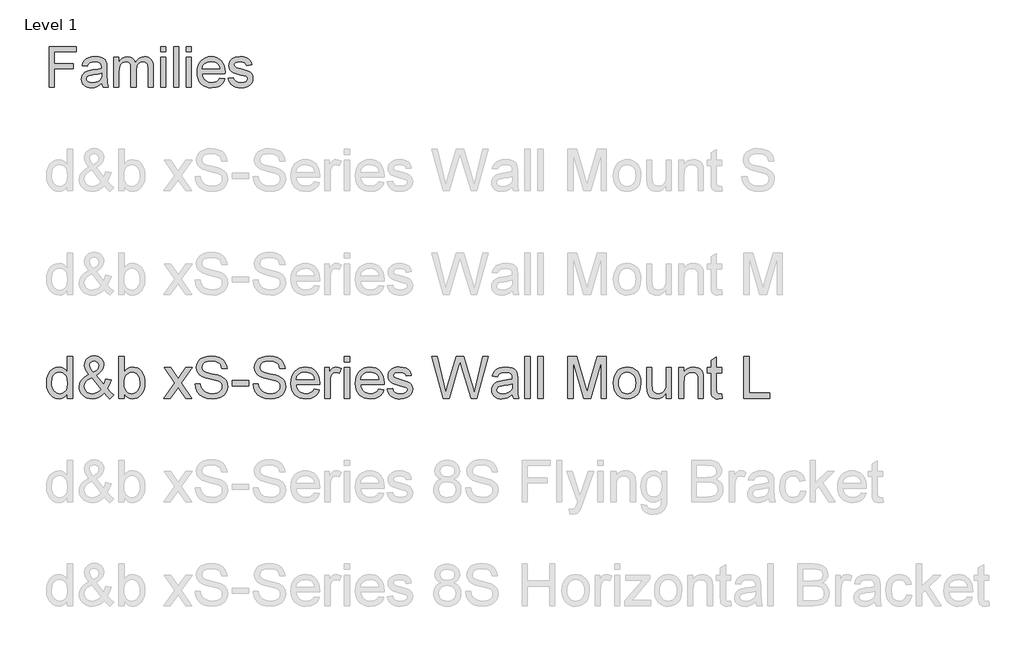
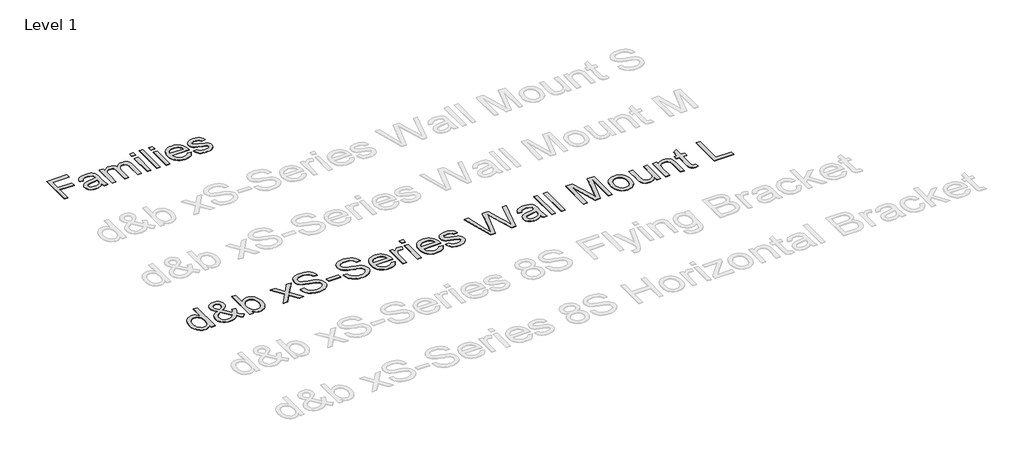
# One storey, part 40 of 55: 2 proxies.
"""IFC4 building model written with IfcOpenShell, lengths in millimetres."""

from ifc_helpers import new_model, si_unit, origin, origin_with_axes, place, context, project, spatial, polyline, outline, extrude, element, save

model = new_model("IFC4")

# Units and contexts
model_context = context("Model", 3, world=origin())
ifc_project = project(units=[si_unit("LENGTHUNIT", "METRE", prefix="MILLI")], contexts=[model_context])

# Site, building, storey
site = spatial("IfcSite", under=ifc_project)
building = spatial("IfcBuilding", under=site)
storey = spatial("IfcBuildingStorey", under=building, Name="Level 1", Elevation=0.0)

# Proxies
placement = place(None, origin())
element("IfcBuildingElementProxy", 1, Name="400mm Arial", ObjectType="400mm Arial", at=placement, inside=storey, context=model_context, shape_type="SweptSolid", body=[
    extrude(outline(polyline([(-21056.720891, 6351.3054836), (-21056.720891, 6743.0630593), (-20793.5087698, 6743.0630593), (-20793.5087698, 6694.0933624), (-21007.7511941, 6694.0933624), (-21007.7511941, 6577.7903321), (-20824.1148304, 6577.7903321), (-20824.1148304, 6528.8206351), (-21007.7511941, 6528.8206351), (-21007.7511941, 6351.3054836), (-21056.720891, 6351.3054836)])), origin_with_axes(), (0.0, 0.0, 1.0), 5.0),
    extrude(outline(polyline([(-20548.660285, 6388.0327563), (-20572.0571836, 6367.97144), (-20596.1475009, 6354.8443093), (-20621.4811893, 6347.5992809), (-20648.6082016, 6345.1842715), (-20670.4120309, 6346.6368638), (-20689.5318522, 6350.9946408), (-20705.9676654, 6358.2576024), (-20719.7194706, 6368.4257487), (-20730.5780466, 6380.8534831), (-20738.3341723, 6394.895209), (-20742.9878477, 6410.5509263), (-20744.5390729, 6427.8206351), (-20742.1957963, 6448.1210612), (-20735.1659668, 6466.5564305), (-20724.3223352, 6482.3376805), (-20710.5376524, 6494.6757487), (-20676.2493001, 6510.7439305), (-20633.879035, 6518.1085139), (-20583.8094327, 6525.855673), (-20548.9472168, 6534.9418472), (-20548.660285, 6545.8452563), (-20552.0317338, 6567.6998965), (-20562.1460804, 6581.9986654), (-20584.7658721, 6592.6151427), (-20616.2805501, 6596.1539684), (-20645.4519516, 6593.7987364), (-20665.8241107, 6586.7330404), (-20679.7163929, 6573.6656872), (-20689.4481638, 6553.3054836), (-20738.4178607, 6559.4266957), (-20729.9175056, 6586.2069987), (-20717.2327282, 6607.2486654), (-20699.1799346, 6623.3407582), (-20674.5755312, 6635.2723396), (-20644.4835568, 6642.660834), (-20609.9680501, 6645.1236654), (-20576.8632916, 6642.9477658), (-20550.6209857, 6636.4200669), (-20530.8346458, 6626.6046076), (-20517.097785, 6614.5654268), (-20507.9876997, 6599.6808387), (-20502.0816865, 6581.3291578), (-20499.690588, 6538.480673), (-20499.690588, 6477.5554836), (-20497.2038456, 6392.4801995), (-20487.4481638, 6351.3054836), (-20536.4178607, 6351.3054836), (-20544.2606638, 6368.3301048), (-20548.660285, 6388.0327563)]), holes=[polyline([(-20548.660285, 6485.9721502), (-20581.5618001, 6477.8185044), (-20627.6621789, 6470.9560518), (-20669.7933342, 6463.0176048), (-20680.7565208, 6457.5898112), (-20688.8743001, 6450.105673), (-20693.8956069, 6441.1390536), (-20695.5693759, 6431.2638169), (-20691.9229507, 6416.7020271), (-20680.9836751, 6404.7704457), (-20662.990659, 6396.8080877), (-20638.1830122, 6394.1539684), (-20611.8809289, 6397.0830641), (-20588.6394516, 6405.870351), (-20569.7975956, 6418.8181493), (-20556.6943759, 6434.228779), (-20550.8840066, 6450.105673), (-20548.9472168, 6472.103779), (-20548.660285, 6485.9721502)])]), origin_with_axes(), (0.0, 0.0, 1.0), 5.0),
    extrude(outline(polyline([(-20432.3572547, 6351.3054836), (-20432.3572547, 6639.0024533), (-20383.3875577, 6639.0024533), (-20383.3875577, 6591.6587033), (-20368.658391, 6613.405744), (-20349.720891, 6630.4423207), (-20327.2206543, 6641.4533292), (-20301.8032774, 6645.1236654), (-20274.5686657, 6641.3815963), (-20252.7379365, 6630.1553889), (-20236.4306448, 6612.1862838), (-20225.7663456, 6588.2155215), (-20207.9167954, 6613.1128344), (-20187.5565918, 6630.8966294), (-20164.6857348, 6641.5669064), (-20139.3042244, 6645.1236654), (-20119.7002057, 6643.6441732), (-20102.4932632, 6639.2056966), (-20087.683397, 6631.8082357), (-20075.2706069, 6621.4517904), (-20065.4581365, 6608.0168058), (-20058.4492291, 6591.3837269), (-20054.2438846, 6571.5525539), (-20052.8421032, 6548.5232866), (-20052.8421032, 6351.3054836), (-20101.8118001, 6351.3054836), (-20101.8118001, 6527.4816199), (-20106.3548872, 6568.369404), (-20112.7391202, 6579.6434334), (-20122.8056448, 6588.5024533), (-20135.7534431, 6594.2410896), (-20150.7814971, 6596.1539684), (-20177.3107348, 6591.2522165), (-20198.9382206, 6576.5469608), (-20207.3279874, 6565.2669537), (-20213.320678, 6551.03394), (-20218.1148304, 6513.7088927), (-20218.1148304, 6351.3054836), (-20267.0845274, 6351.3054836), (-20267.0845274, 6532.9333245), (-20269.9179791, 6560.6222449), (-20278.4183342, 6580.3727184), (-20293.3746552, 6592.2086559), (-20315.5760047, 6596.1539684), (-20334.4417717, 6593.5237601), (-20351.8250577, 6585.6331351), (-20366.1716486, 6572.6733813), (-20375.9273304, 6554.8357866), (-20381.5225009, 6530.0879173), (-20383.3875577, 6496.3973396), (-20383.3875577, 6351.3054836), (-20432.3572547, 6351.3054836)])), origin_with_axes(), (0.0, 0.0, 1.0), 5.0),
    extrude(outline(polyline([(-19979.3875577, 6694.0933624), (-19979.3875577, 6743.0630593), (-19930.4178607, 6743.0630593), (-19930.4178607, 6694.0933624), (-19979.3875577, 6694.0933624)])), origin_with_axes(), (0.0, 0.0, 1.0), 5.0),
    extrude(outline(polyline([(-19979.3875577, 6351.3054836), (-19979.3875577, 6639.0024533), (-19930.4178607, 6639.0024533), (-19930.4178607, 6351.3054836), (-19979.3875577, 6351.3054836)])), origin_with_axes(), (0.0, 0.0, 1.0), 5.0),
    extrude(outline(polyline([(-19856.9633153, 6351.3054836), (-19856.9633153, 6743.0630593), (-19807.9936183, 6743.0630593), (-19807.9936183, 6351.3054836), (-19856.9633153, 6351.3054836)])), origin_with_axes(), (0.0, 0.0, 1.0), 5.0),
    extrude(outline(polyline([(-19734.5390729, 6694.0933624), (-19734.5390729, 6743.0630593), (-19685.5693759, 6743.0630593), (-19685.5693759, 6694.0933624), (-19734.5390729, 6694.0933624)])), origin_with_axes(), (0.0, 0.0, 1.0), 5.0),
    extrude(outline(polyline([(-19734.5390729, 6351.3054836), (-19734.5390729, 6639.0024533), (-19685.5693759, 6639.0024533), (-19685.5693759, 6351.3054836), (-19734.5390729, 6351.3054836)])), origin_with_axes(), (0.0, 0.0, 1.0), 5.0),
    extrude(outline(polyline([(-19410.6886941, 6437.0024533), (-19362.6754365, 6430.8812411), (-19370.0370309, 6411.6508316), (-19379.975034, 6394.7039211), (-19392.4894457, 6380.0405096), (-19407.580266, 6367.6605972), (-19425.0920736, 6357.8272047), (-19444.8694469, 6350.8033529), (-19491.220891, 6345.1842715), (-19521.605775, 6347.6082475), (-19548.6789876, 6354.8801758), (-19572.4405288, 6367.0000563), (-19592.8903986, 6383.9678889), (-19609.3351784, 6405.3114317), (-19621.0814497, 6430.5584429), (-19628.1292125, 6459.7089223), (-19630.4784668, 6492.7628699), (-19628.1053015, 6526.937645), (-19620.9858058, 6557.0595082), (-19609.1199796, 6583.1284594), (-19592.5078229, 6605.1444987), (-19572.1117528, 6622.6353841), (-19548.8941865, 6635.1288737), (-19522.855124, 6642.6249675), (-19493.9945653, 6645.1236654), (-19466.0635461, 6642.6309452), (-19440.8045795, 6635.1527847), (-19418.2176654, 6622.6891839), (-19398.3028039, 6605.2401427), (-19382.0463231, 6583.2719253), (-19370.4345511, 6557.2507961), (-19363.4674879, 6527.1767549), (-19361.1451335, 6493.0498018), (-19361.4320653, 6479.8509381), (-19581.5087698, 6479.8509381), (-19578.6723292, 6460.3096858), (-19573.0323257, 6443.1953983), (-19564.5887592, 6428.5080759), (-19553.3416297, 6416.2477184), (-19524.9234242, 6399.6774059), (-19490.2644516, 6394.1539684), (-19464.2014782, 6396.7124438), (-19442.2511941, 6404.3878699), (-19424.4135994, 6417.6584665), (-19410.6886941, 6437.0024533)]), holes=[polyline([(-19581.5087698, 6528.8206351), (-19410.1148304, 6528.8206351), (-19416.7381732, 6554.6923207), (-19429.721838, 6573.199423), (-19443.076123, 6583.2420366), (-19458.2715539, 6590.4153321), (-19494.1858532, 6596.1539684), (-19527.1949677, 6591.5750148), (-19554.4893569, 6577.838154), (-19573.4627234, 6556.4258671), (-19581.5087698, 6528.8206351)])]), origin_with_axes(), (0.0, 0.0, 1.0), 5.0),
    extrude(outline(polyline([(-19330.5390729, 6437.0024533), (-19281.5693759, 6443.1236654), (-19273.8461278, 6422.1776427), (-19258.9017622, 6406.7789684), (-19236.6406354, 6397.3102184), (-19206.9671032, 6394.1539684), (-19177.6522357, 6397.0471976), (-19157.0409668, 6405.7268851), (-19144.8463645, 6418.3040631), (-19140.7814971, 6432.8897639), (-19144.8702755, 6445.371298), (-19157.1366107, 6454.8878699), (-19207.5409668, 6468.8518851), (-19281.2824441, 6492.8106919), (-19299.9449677, 6504.8498728), (-19313.4666297, 6520.7865442), (-19321.680053, 6539.6044893), (-19324.4178607, 6560.2874911), (-19322.2180501, 6579.2608576), (-19315.6186183, 6596.775654), (-19305.2173399, 6612.1384618), (-19291.6119895, 6624.6558624), (-19260.4798872, 6639.1459192), (-19218.3487319, 6645.1236654), (-19186.4753891, 6642.7206114), (-19158.7625577, 6635.5114495), (-19136.4775198, 6624.2015536), (-19120.8875577, 6609.496298), (-19110.5580122, 6590.3077326), (-19104.0542244, 6565.5479078), (-19153.0239213, 6559.4266957), (-19159.2049109, 6574.8373254), (-19171.4353797, 6586.4461086), (-19189.8348825, 6593.7270035), (-19214.5229744, 6596.1539684), (-19242.6422925, 6593.8346029), (-19261.3885047, 6586.8765063), (-19271.933249, 6576.8338927), (-19275.4481638, 6565.260976), (-19269.6138835, 6551.010029), (-19251.345891, 6540.2022639), (-19209.1669138, 6529.7770745), (-19137.2904933, 6506.7268851), (-19118.3051713, 6495.7039211), (-19103.9107585, 6480.6160896), (-19094.8365397, 6461.4155688), (-19091.8118001, 6438.0545366), (-19095.3625814, 6413.9044419), (-19106.0149251, 6391.1890063), (-19123.3623446, 6371.6895982), (-19146.9983532, 6357.1875858), (-19175.5480691, 6348.1851), (-19207.6366107, 6345.1842715), (-19233.9924938, 6346.630886), (-19257.0127944, 6350.9707298), (-19276.6975127, 6358.2038027), (-19293.0466486, 6368.3301048), (-19306.4009336, 6381.3018141), (-19317.1010994, 6397.0711086), (-19325.1471458, 6415.6379883), (-19330.5390729, 6437.0024533)])), origin_with_axes(), (0.0, 0.0, 1.0), 5.0),
])
element("IfcBuildingElementProxy", 2, Name="400mm Arial", ObjectType="400mm Arial", at=placement, inside=storey, context=model_context, shape_type="SweptSolid", body=[
    extrude(outline(polyline([(-20879.8211974, 3351.3054836), (-20879.8211974, 3398.6886846), (-20894.8491769, 3375.2116819), (-20913.0532043, 3358.4423943), (-20934.4332796, 3348.3808217), (-20958.9894028, 3345.0269642), (-20991.4611202, 3349.8830065), (-21021.1859854, 3364.4511335), (-21046.3491139, 3387.7135384), (-21065.1356211, 3418.6524142), (-21076.8342686, 3456.0169621), (-21080.7338177, 3498.5563835), (-21077.1408369, 3540.5685074), (-21066.3618944, 3578.5094038), (-21048.4092531, 3610.2208318), (-21023.2951755, 3633.5445503), (-20992.9203855, 3647.8919481), (-20959.1856065, 3652.674414), (-20934.6110892, 3649.2531115), (-20912.8815261, 3638.9892038), (-20894.4629008, 3623.2561171), (-20879.8211974, 3603.4272776), (-20879.8211974, 3753.1307242), (-20829.5930424, 3753.1307242), (-20829.5930424, 3351.3054836), (-20879.8211974, 3351.3054836)]), holes=[polyline([(-21030.5056627, 3498.7525872), (-21029.089317, 3474.3957335), (-21024.8402799, 3453.3191608), (-21017.7585515, 3435.5228693), (-21007.8441318, 3421.0068589), (-20983.1469871, 3401.6930542), (-20969.2717046, 3396.864603), (-20954.3786151, 3395.2551193), (-20939.415015, 3396.7910266), (-20925.6225058, 3401.3987486), (-20901.5507606, 3419.8296365), (-20892.0440767, 3433.7386416), (-20885.2535882, 3450.8911397), (-20879.8211974, 3494.9266145), (-20885.3516901, 3543.0701049), (-20892.2648059, 3561.6052261), (-20901.9431681, 3576.4492646), (-20913.6448812, 3587.8229496), (-20926.6280499, 3595.9470104), (-20940.8926743, 3600.8214468), (-20956.4387543, 3602.4462589), (-20971.6261493, 3600.8858262), (-20985.5014319, 3596.2045278), (-20998.064602, 3588.4023638), (-21009.3156597, 3577.4793342), (-21018.586286, 3563.1963157), (-21025.2081619, 3545.3141851), (-21030.5056627, 3498.7525872)])]), origin_with_axes(), (0.0, 0.0, 1.0), 5.0),
    extrude(outline(polyline([(-20523.809528, 3400.9450275), (-20549.3405384, 3376.4808748), (-20577.0788409, 3359.00648), (-20607.0734862, 3348.5218431), (-20639.3735254, 3345.0269642), (-20668.6814577, 3347.6144009), (-20694.8010793, 3355.376711), (-20717.7323904, 3368.3138945), (-20737.4753908, 3386.4259514), (-20750.308341, 3403.7961129), (-20759.4747341, 3422.1595558), (-20764.9745699, 3441.5162802), (-20766.8078485, 3461.8662859), (-20760.9094739, 3497.0603301), (-20743.2143499, 3528.6736562), (-20713.796053, 3556.6817387), (-20672.7281596, 3581.0600523), (-20694.6416638, 3609.4114914), (-20707.7995765, 3631.8768186), (-20714.3846642, 3651.0557332), (-20716.5796934, 3669.5479349), (-20714.8506481, 3687.1020374), (-20709.6635119, 3703.4666548), (-20701.018285, 3718.6417871), (-20688.9149674, 3732.6274343), (-20674.1935562, 3744.3444759), (-20657.6940487, 3752.7137912), (-20639.4164449, 3757.7353805), (-20619.3607448, 3759.4092436), (-20600.212487, 3757.8089569), (-20582.8913764, 3753.0080968), (-20567.397413, 3745.0066634), (-20553.7305969, 3733.8046567), (-20542.5715097, 3720.3585698), (-20534.6007332, 3705.6248959), (-20529.8182672, 3689.603635), (-20528.2241119, 3672.2947871), (-20532.9452642, 3644.31123), (-20547.108721, 3618.436863), (-20570.7144823, 3594.6716861), (-20603.7625482, 3573.0156993), (-20531.069066, 3482.4676776), (-20518.6837055, 3508.3420446), (-20509.3885538, 3538.0914353), (-20459.1603987, 3527.2021282), (-20474.6114425, 3480.6773185), (-20494.6732739, 3444.5022557), (-20466.1256311, 3411.1966724), (-20434.0463211, 3383.6790991), (-20471.7174374, 3345.0269642), (-20497.3465498, 3368.47331), (-20523.809528, 3400.9450275)]), holes=[polyline([(-20557.4584678, 3437.1446158), (-20647.1235727, 3549.0788442), (-20681.3733865, 3527.2266537), (-20702.305872, 3506.9931439), (-20713.0112381, 3487.6670765), (-20716.5796934, 3468.5372127), (-20711.6991256, 3444.8456122), (-20697.0574222, 3420.2710949), (-20686.2784798, 3409.3266056), (-20673.4639236, 3401.5091132), (-20658.6137537, 3396.8186177), (-20641.7279702, 3395.2551193), (-20619.0051256, 3398.1736498), (-20595.5710425, 3406.9292412), (-20574.1480476, 3420.3201459), (-20557.4584678, 3437.1446158)]), polyline([(-20629.1709314, 3604.7026019), (-20602.9041569, 3621.3676562), (-20587.8700461, 3635.8499441), (-20580.8067117, 3649.9398245), (-20578.452267, 3665.4276565), (-20581.5547385, 3682.9756277), (-20590.862153, 3696.9674062), (-20604.829406, 3706.1276679), (-20621.9113933, 3709.1810885), (-20639.3612626, 3706.1521934), (-20653.6473468, 3697.0655081), (-20663.1754905, 3683.6132898), (-20666.3515384, 3667.4877957), (-20662.0350563, 3649.0936959), (-20648.9875082, 3628.639457), (-20629.1709314, 3604.7026019)])]), origin_with_axes(), (0.0, 0.0, 1.0), 5.0),
    extrude(outline(polyline([(-20333.590011, 3351.3054836), (-20383.8181661, 3351.3054836), (-20383.8181661, 3753.1307242), (-20333.590011, 3753.1307242), (-20333.590011, 3604.1139907), (-20317.0721094, 3625.3591759), (-20298.4204923, 3640.5343082), (-20277.6351595, 3649.6393876), (-20254.7161112, 3652.674414), (-20228.8417442, 3649.9398245), (-20204.3898543, 3641.736056), (-20182.758393, 3628.5781433), (-20165.3453119, 3610.9811212), (-20151.6968898, 3589.116668), (-20141.3594058, 3563.1564619), (-20134.8478945, 3534.1796234), (-20132.6773907, 3503.265273), (-20134.9245365, 3467.5929822), (-20141.6659741, 3436.2126481), (-20152.9017034, 3409.1242705), (-20168.6317244, 3386.3278495), (-20187.5132678, 3368.2587122), (-20208.2035643, 3355.3521855), (-20230.702614, 3347.6082695), (-20255.0104168, 3345.0269642), (-20278.6836232, 3348.3562962), (-20299.671291, 3358.3442924), (-20317.9734203, 3374.9909527), (-20333.590011, 3398.2962771), (-20333.590011, 3351.3054836)]), holes=[polyline([(-20333.590011, 3500.9108283), (-20330.1564457, 3459.0213318), (-20319.8557498, 3430.6698927), (-20307.6849872, 3415.1759293), (-20293.5399244, 3404.1088126), (-20277.4205617, 3397.4685426), (-20259.3268989, 3395.2551193), (-20244.3050508, 3396.8860628), (-20230.3377977, 3401.7788933), (-20217.4251396, 3409.9336109), (-20205.5670767, 3421.3502155), (-20195.6526569, 3435.9980502), (-20188.5709285, 3453.8464584), (-20184.3218914, 3474.8954399), (-20182.9055458, 3499.1449947), (-20188.3379366, 3545.1057186), (-20195.1284251, 3562.8989445), (-20204.6351089, 3577.2340795), (-20216.0670419, 3588.264408), (-20228.6332778, 3596.1432141), (-20242.3338164, 3600.8704977), (-20257.1686579, 3602.4462589), (-20272.190506, 3600.8153154), (-20286.1577591, 3595.9224849), (-20299.0704171, 3587.7677673), (-20310.9284801, 3576.3511628), (-20320.8428999, 3561.8504808), (-20327.9246283, 3544.443531), (-20332.1736653, 3524.1303135), (-20333.590011, 3500.9108283)])]), origin_with_axes(), (0.0, 0.0, 1.0), 5.0),
    extrude(outline(polyline([(-19950.6003285, 3351.3054836), (-19843.2768878, 3499.7336059), (-19944.3218092, 3646.3958946), (-19884.0872638, 3646.3958946), (-19835.3306367, 3575.6644497), (-19812.4729021, 3542.4079173), (-19792.6563253, 3569.6802359), (-19737.1306695, 3646.3958946), (-19676.6999204, 3646.3958946), (-19782.8461387, 3499.635504), (-19680.623995, 3351.3054836), (-19740.9566422, 3351.3054836), (-19802.5646137, 3440.5781811), (-19813.7482263, 3456.9611926), (-19890.1695795, 3351.3054836), (-19950.6003285, 3351.3054836)])), origin_with_axes(), (0.0, 0.0, 1.0), 5.0),
    extrude(outline(polyline([(-19649.2313981, 3489.43291), (-19599.003243, 3489.43291), (-19593.2397584, 3461.5597175), (-19582.8164352, 3439.155704), (-19566.556051, 3421.3747409), (-19543.2813835, 3407.3706996), (-19514.8318425, 3398.2840144), (-19483.0468381, 3395.2551193), (-19455.063281, 3397.5482504), (-19430.5623402, 3404.4276437), (-19410.7089752, 3415.3169507), (-19396.6681457, 3429.6398231), (-19388.3172244, 3446.0841483), (-19385.533584, 3463.3378138), (-19387.6182486, 3480.150021), (-19393.8722425, 3494.6813598), (-19406.5764341, 3507.0789831), (-19428.0116917, 3517.4900435), (-19501.1466323, 3536.6689582), (-19549.1552327, 3549.360887), (-19579.8733793, 3561.4396792), (-19604.8770922, 3578.3377255), (-19622.5967416, 3598.8164899), (-19633.1549549, 3622.434514), (-19636.6743593, 3648.7503394), (-19632.3210891, 3678.1686363), (-19619.2612782, 3705.6003704), (-19597.8382834, 3728.8505125), (-19568.395461, 3745.7240333), (-19533.054264, 3755.987941), (-19493.9361452, 3759.4092436), (-19451.5561394, 3755.8285255), (-19414.4736342, 3745.0863712), (-19384.013005, 3727.40351), (-19361.4986269, 3703.000671), (-19347.249331, 3673.3984331), (-19341.5839483, 3640.1173753), (-19391.8121033, 3640.1173753), (-19401.0336787, 3670.0874951), (-19409.3968627, 3681.9455581), (-19420.2616443, 3691.7189564), (-19450.3053406, 3704.8155555), (-19491.9741079, 3709.1810885), (-19534.6238939, 3704.8646064), (-19550.9271976, 3699.4690038), (-19563.8827752, 3691.9151602), (-19580.805347, 3672.8588728), (-19586.4462043, 3650.2218674), (-19582.4485532, 3630.9203254), (-19570.4556002, 3615.3957052), (-19542.1041611, 3601.5142912), (-19488.4424407, 3587.3385717), (-19433.0639377, 3573.8740907), (-19399.5621507, 3562.1263923), (-19370.9286687, 3543.9039708), (-19350.9526764, 3521.4141181), (-19339.2172408, 3494.902089), (-19335.3054289, 3464.6131381), (-19339.805852, 3433.6497368), (-19353.3071212, 3404.5257455), (-19375.2574136, 3379.4607189), (-19405.1049061, 3360.6742117), (-19440.9979261, 3348.9387761), (-19481.0848008, 3345.0269642), (-19530.2951491, 3349.2453444), (-19570.7989567, 3361.900485), (-19603.0622077, 3383.041437), (-19627.5508858, 3412.7172513), (-19643.2717098, 3448.8677887), (-19649.2313981, 3489.43291)])), origin_with_axes(), (0.0, 0.0, 1.0), 5.0),
    extrude(outline(polyline([(-19291.3557932, 3470.5973519), (-19291.3557932, 3520.825507), (-19134.3928086, 3520.825507), (-19134.3928086, 3470.5973519), (-19291.3557932, 3470.5973519)])), origin_with_axes(), (0.0, 0.0, 1.0), 5.0),
    extrude(outline(polyline([(-19090.4431729, 3489.43291), (-19040.2150178, 3489.43291), (-19034.4515332, 3461.5597175), (-19024.02821, 3439.155704), (-19007.7678258, 3421.3747409), (-18984.4931583, 3407.3706996), (-18956.0436173, 3398.2840144), (-18924.2586129, 3395.2551193), (-18896.2750558, 3397.5482504), (-18871.774115, 3404.4276437), (-18851.9207499, 3415.3169507), (-18837.8799205, 3429.6398231), (-18829.5289992, 3446.0841483), (-18826.7453587, 3463.3378138), (-18828.8300234, 3480.150021), (-18835.0840173, 3494.6813598), (-18847.7882089, 3507.0789831), (-18869.2234665, 3517.4900435), (-18942.3584071, 3536.6689582), (-18990.3670075, 3549.360887), (-19021.0851541, 3561.4396792), (-19046.088867, 3578.3377255), (-19063.8085164, 3598.8164899), (-19074.3667297, 3622.434514), (-19077.8861341, 3648.7503394), (-19073.5328638, 3678.1686363), (-19060.473053, 3705.6003704), (-19039.0500582, 3728.8505125), (-19009.6072358, 3745.7240333), (-18974.2660388, 3755.987941), (-18935.14792, 3759.4092436), (-18892.7679141, 3755.8285255), (-18855.685409, 3745.0863712), (-18825.2247798, 3727.40351), (-18802.7104017, 3703.000671), (-18788.4611058, 3673.3984331), (-18782.7957231, 3640.1173753), (-18833.0238781, 3640.1173753), (-18842.2454535, 3670.0874951), (-18850.6086375, 3681.9455581), (-18861.4734191, 3691.7189564), (-18891.5171154, 3704.8155555), (-18933.1858827, 3709.1810885), (-18975.8356687, 3704.8646064), (-18992.1389724, 3699.4690038), (-19005.09455, 3691.9151602), (-19022.0171218, 3672.8588728), (-19027.657979, 3650.2218674), (-19023.660328, 3630.9203254), (-19011.667375, 3615.3957052), (-18983.3159359, 3601.5142912), (-18929.6542155, 3587.3385717), (-18874.2757125, 3573.8740907), (-18840.7739255, 3562.1263923), (-18812.1404435, 3543.9039708), (-18792.1644512, 3521.4141181), (-18780.4290156, 3494.902089), (-18776.5172037, 3464.6131381), (-18781.0176267, 3433.6497368), (-18794.518896, 3404.5257455), (-18816.4691883, 3379.4607189), (-18846.3166809, 3360.6742117), (-18882.2097009, 3348.9387761), (-18922.2965756, 3345.0269642), (-18971.5069238, 3349.2453444), (-19012.0107315, 3361.900485), (-19044.2739825, 3383.041437), (-19068.7626606, 3412.7172513), (-19084.4834846, 3448.8677887), (-19090.4431729, 3489.43291)])), origin_with_axes(), (0.0, 0.0, 1.0), 5.0),
    extrude(outline(polyline([(-18500.850962, 3439.204755), (-18451.6038255, 3432.9262356), (-18459.1546035, 3413.2016293), (-18469.3480004, 3395.819205), (-18482.1840164, 3380.7789628), (-18497.6626513, 3368.0809026), (-18515.6244897, 3357.9948045), (-18535.9101161, 3350.7904488), (-18583.4527326, 3345.0269642), (-18614.618469, 3347.5132333), (-18642.3874282, 3354.9720408), (-18666.7596104, 3367.4033865), (-18687.7350155, 3384.8072706), (-18704.602405, 3406.699315), (-18716.6505403, 3432.5951418), (-18723.8794215, 3462.4947509), (-18726.2890486, 3496.3981425), (-18723.8548961, 3531.4511652), (-18716.5524385, 3562.3471215), (-18704.3816758, 3589.0860112), (-18687.342608, 3611.6678343), (-18666.4223852, 3629.6082129), (-18642.6081574, 3642.4227691), (-18615.8999246, 3650.1115028), (-18586.2976867, 3652.674414), (-18557.6488763, 3650.1176342), (-18531.7407868, 3642.4472946), (-18508.5734182, 3629.6633952), (-18488.1467704, 3611.7659362), (-18471.472519, 3589.233164), (-18459.5623394, 3562.5433252), (-18452.4162316, 3531.6964199), (-18450.0341957, 3496.6924481), (-18450.3285013, 3483.1543906), (-18676.0608935, 3483.1543906), (-18673.1515601, 3463.1109533), (-18667.3666157, 3445.5568507), (-18658.7060604, 3430.492083), (-18647.1698942, 3417.9166502), (-18633.3957791, 3408.0022304), (-18618.0213774, 3400.920502), (-18582.4717139, 3395.2551193), (-18555.7389556, 3397.8793442), (-18533.2245775, 3405.7520189), (-18514.9285796, 3419.3636527), (-18500.850962, 3439.204755)]), holes=[polyline([(-18676.0608935, 3533.3825457), (-18500.2623508, 3533.3825457), (-18507.0559049, 3559.9191003), (-18520.3732332, 3578.9018113), (-18534.0707061, 3589.2025071), (-18549.65664, 3596.560147), (-18567.1310348, 3600.974731), (-18586.4938904, 3602.4462589), (-18620.3512967, 3597.7496321), (-18648.3471166, 3583.6597517), (-18667.8080741, 3561.6971966), (-18676.0608935, 3533.3825457)])]), origin_with_axes(), (0.0, 0.0, 1.0), 5.0),
    extrude(outline(polyline([(-18399.8060406, 3351.3054836), (-18399.8060406, 3646.3958946), (-18355.8564049, 3646.3958946), (-18355.8564049, 3602.7405645), (-18339.6205462, 3628.0508458), (-18324.6600117, 3642.9623293), (-18309.6504263, 3650.2463929), (-18293.2674148, 3652.674414), (-18268.2514391, 3648.7993903), (-18242.843056, 3637.1743193), (-18259.618475, 3592.1455631), (-18277.2768108, 3599.871085), (-18294.9351465, 3602.4462589), (-18309.9324692, 3599.9691868), (-18323.3356365, 3592.5379705), (-18334.1636299, 3580.7166958), (-18341.4354307, 3565.0694482), (-18347.5422718, 3537.0123147), (-18349.5778855, 3506.4045327), (-18349.5778855, 3351.3054836), (-18399.8060406, 3351.3054836)])), origin_with_axes(), (0.0, 0.0, 1.0), 5.0),
    extrude(outline(polyline([(-18211.4504591, 3702.9025691), (-18211.4504591, 3753.1307242), (-18161.222304, 3753.1307242), (-18161.222304, 3702.9025691), (-18211.4504591, 3702.9025691)])), origin_with_axes(), (0.0, 0.0, 1.0), 5.0),
    extrude(outline(polyline([(-18211.4504591, 3351.3054836), (-18211.4504591, 3646.3958946), (-18161.222304, 3646.3958946), (-18161.222304, 3351.3054836), (-18211.4504591, 3351.3054836)])), origin_with_axes(), (0.0, 0.0, 1.0), 5.0),
    extrude(outline(polyline([(-17879.2775429, 3439.204755), (-17830.0304065, 3432.9262356), (-17837.5811844, 3413.2016293), (-17847.7745814, 3395.819205), (-17860.6105973, 3380.7789628), (-17876.0892323, 3368.0809026), (-17894.0510707, 3357.9948045), (-17914.336697, 3350.7904488), (-17961.8793136, 3345.0269642), (-17993.0450499, 3347.5132333), (-18020.8140092, 3354.9720408), (-18045.1861914, 3367.4033865), (-18066.1615965, 3384.8072706), (-18083.0289859, 3406.699315), (-18095.0771213, 3432.5951418), (-18102.3060025, 3462.4947509), (-18104.7156295, 3496.3981425), (-18102.281477, 3531.4511652), (-18094.9790194, 3562.3471215), (-18082.8082567, 3589.0860112), (-18065.769189, 3611.6678343), (-18044.8489662, 3629.6082129), (-18021.0347384, 3642.4227691), (-17994.3265055, 3650.1115028), (-17964.7242676, 3652.674414), (-17936.0754573, 3650.1176342), (-17910.1673678, 3642.4472946), (-17886.9999991, 3629.6633952), (-17866.5733513, 3611.7659362), (-17849.8990999, 3589.233164), (-17837.9889203, 3562.5433252), (-17830.8428126, 3531.6964199), (-17828.4607766, 3496.6924481), (-17828.7550822, 3483.1543906), (-18054.4874745, 3483.1543906), (-18051.578141, 3463.1109533), (-18045.7931967, 3445.5568507), (-18037.1326413, 3430.492083), (-18025.5964751, 3417.9166502), (-18011.8223601, 3408.0022304), (-17996.4479584, 3400.920502), (-17960.8982949, 3395.2551193), (-17934.1655366, 3397.8793442), (-17911.6511585, 3405.7520189), (-17893.3551606, 3419.3636527), (-17879.2775429, 3439.204755)]), holes=[polyline([(-18054.4874745, 3533.3825457), (-17878.6889317, 3533.3825457), (-17885.4824859, 3559.9191003), (-17898.7998141, 3578.9018113), (-17912.4972871, 3589.2025071), (-17928.0832209, 3596.560147), (-17945.5576157, 3600.974731), (-17964.9204714, 3602.4462589), (-17998.7778777, 3597.7496321), (-18026.7736975, 3583.6597517), (-18046.234655, 3561.6971966), (-18054.4874745, 3533.3825457)])]), origin_with_axes(), (0.0, 0.0, 1.0), 5.0),
    extrude(outline(polyline([(-17797.0681797, 3439.204755), (-17746.8400246, 3445.4832743), (-17738.918299, 3423.9989658), (-17723.5898825, 3408.2045655), (-17700.7566734, 3398.4924808), (-17670.3205696, 3395.2551193), (-17640.2523479, 3398.2227007), (-17619.1113959, 3407.125445), (-17606.6034081, 3420.0258403), (-17602.4340788, 3434.9863747), (-17606.6279335, 3447.7886682), (-17619.2094978, 3457.5498038), (-17670.9091808, 3471.8726761), (-17746.545719, 3496.4471934), (-17765.6878455, 3508.7957657), (-17779.5569967, 3525.141989), (-17787.9814944, 3544.443531), (-17790.7896603, 3565.6580594), (-17788.5333174, 3585.119017), (-17781.7642887, 3603.0839211), (-17771.0957109, 3618.8415332), (-17757.1407205, 3631.6806148), (-17725.2085633, 3646.5430474), (-17704.3251287, 3651.1415724), (-17681.9946916, 3652.674414), (-17649.302245, 3650.2096047), (-17620.8772295, 3642.8151766), (-17598.0194949, 3631.214631), (-17582.0288908, 3616.1314692), (-17571.4338893, 3596.4497824), (-17564.7629625, 3571.053662), (-17614.9911176, 3564.7751426), (-17621.3309506, 3580.5818057), (-17633.8757267, 3592.4889196), (-17652.748073, 3599.9569241), (-17678.070617, 3602.4462589), (-17706.9125654, 3600.0672887), (-17726.140531, 3592.930378), (-17736.9562617, 3582.6296821), (-17740.5615053, 3570.7593564), (-17734.5772915, 3556.1421785), (-17715.8398352, 3545.0566677), (-17672.5769125, 3534.3635644), (-17598.8533607, 3510.7210148), (-17579.3801404, 3499.4147748), (-17564.6158097, 3483.9392056), (-17555.3083952, 3464.2452561), (-17552.2059237, 3440.2838755), (-17555.8479555, 3415.5131545), (-17566.7740507, 3392.2139614), (-17584.5672766, 3372.2134436), (-17608.8107, 3357.3387483), (-17638.0941069, 3348.1049102), (-17671.0072827, 3345.0269642), (-17698.040478, 3346.5107549), (-17721.6523707, 3350.962127), (-17741.8429609, 3358.3810806), (-17758.6122485, 3368.7676156), (-17772.3097214, 3382.0726811), (-17783.2848676, 3398.2472262), (-17791.5376871, 3417.2912508), (-17797.0681797, 3439.204755)])), origin_with_axes(), (0.0, 0.0, 1.0), 5.0),
    extrude(outline(polyline([(-17260.5490779, 3351.3054836), (-17370.1288616, 3753.1307242), (-17318.3310767, 3753.1307242), (-17254.7610679, 3489.0405026), (-17235.1406948, 3407.5178524), (-17214.1468956, 3479.6227235), (-17134.4881809, 3753.1307242), (-17059.8326614, 3753.1307242), (-17001.9525608, 3554.8668542), (-16977.1573143, 3481.2904552), (-16958.8858419, 3407.5178524), (-16939.85408, 3486.6860578), (-16875.7935619, 3753.1307242), (-16823.8976751, 3753.1307242), (-16933.3793569, 3351.3054836), (-16987.1391791, 3351.3054836), (-17083.5733128, 3661.3073782), (-17097.0132684, 3704.5703008), (-17112.1209556, 3652.4782103), (-17199.9221251, 3351.3054836), (-17260.5490779, 3351.3054836)])), origin_with_axes(), (0.0, 0.0, 1.0), 5.0),
    extrude(outline(polyline([(-16591.5924579, 3388.9765999), (-16615.5906267, 3368.3997336), (-16640.3000341, 3354.9352526), (-16666.2847657, 3347.5040363), (-16694.1089072, 3345.0269642), (-16716.4730669, 3346.5168863), (-16736.0842429, 3350.9866525), (-16752.9424353, 3358.4362629), (-16767.0476442, 3368.8657175), (-16778.1852716, 3381.6128286), (-16786.1407197, 3396.0154087), (-16790.9139886, 3412.0734578), (-16792.5050782, 3429.7869759), (-16790.1015825, 3450.6090968), (-16782.8910954, 3469.5182314), (-16771.7687964, 3485.7050391), (-16757.6298651, 3498.3601798), (-16741.0138616, 3507.9251117), (-16722.4603463, 3514.8412932), (-16679.00122, 3522.3951368), (-16627.6448934, 3530.3413879), (-16591.8867635, 3539.6610651), (-16591.5924579, 3550.8446778), (-16595.0505487, 3573.260954), (-16605.4248209, 3587.9271829), (-16628.6259121, 3598.8164899), (-16660.9504767, 3602.4462589), (-16690.8715457, 3600.0305005), (-16711.767243, 3592.7832252), (-16726.016539, 3579.3800578), (-16735.9984038, 3558.4966233), (-16786.2265588, 3564.7751426), (-16777.5077555, 3592.2436649), (-16764.4969957, 3613.8260753), (-16745.9802686, 3630.3317142), (-16720.7435637, 3642.5699219), (-16689.8782643, 3650.148291), (-16654.4757536, 3652.674414), (-16620.5202455, 3650.4425966), (-16593.6035462, 3643.7471443), (-16573.3087228, 3633.6794403), (-16559.2188423, 3621.330868), (-16549.8746397, 3606.0637652), (-16543.8168495, 3587.2404698), (-16541.3643028, 3543.2908341), (-16541.3643028, 3480.7999459), (-16538.8136543, 3393.5383366), (-16528.8072641, 3351.3054836), (-16579.0354191, 3351.3054836), (-16587.0797721, 3368.7676156), (-16591.5924579, 3388.9765999)]), holes=[polyline([(-16591.5924579, 3489.43291), (-16625.3394996, 3481.069726), (-16672.6245987, 3474.0309172), (-16715.8384704, 3465.8884623), (-16727.0833967, 3460.3211815), (-16735.4097926, 3452.6447105), (-16740.5601405, 3443.4476606), (-16742.2769231, 3433.318643), (-16738.5367895, 3418.382634), (-16727.3163887, 3406.1444263), (-16708.8609752, 3397.977446), (-16683.4158039, 3395.2551193), (-16656.4377909, 3398.2594889), (-16632.5990376, 3407.2725978), (-16613.2729702, 3420.5531378), (-16599.8330146, 3436.3598009), (-16593.8733263, 3452.6447105), (-16591.8867635, 3475.2081395), (-16591.5924579, 3489.43291)])]), origin_with_axes(), (0.0, 0.0, 1.0), 5.0),
    extrude(outline(polyline([(-16472.3005896, 3351.3054836), (-16472.3005896, 3753.1307242), (-16422.0724345, 3753.1307242), (-16422.0724345, 3351.3054836), (-16472.3005896, 3351.3054836)])), origin_with_axes(), (0.0, 0.0, 1.0), 5.0),
    extrude(outline(polyline([(-16346.7302019, 3351.3054836), (-16346.7302019, 3753.1307242), (-16296.5020469, 3753.1307242), (-16296.5020469, 3351.3054836), (-16346.7302019, 3351.3054836)])), origin_with_axes(), (0.0, 0.0, 1.0), 5.0),
    extrude(outline(polyline([(-16057.9183102, 3351.3054836), (-16057.9183102, 3753.1307242), (-15971.7848724, 3753.1307242), (-15889.3793055, 3469.9106388), (-15872.7019884, 3410.755214), (-15854.749347, 3474.8157321), (-15773.91341, 3753.1307242), (-15687.4856666, 3753.1307242), (-15687.4856666, 3351.3054836), (-15737.7138216, 3351.3054836), (-15737.7138216, 3702.9025691), (-15838.6606411, 3351.3054836), (-15906.6452338, 3351.3054836), (-16007.6901552, 3702.9025691), (-16007.6901552, 3351.3054836), (-16057.9183102, 3351.3054836)])), origin_with_axes(), (0.0, 0.0, 1.0), 5.0),
    extrude(outline(polyline([(-15618.4219533, 3498.8506891), (-15615.7057579, 3537.067497), (-15607.5571718, 3569.999067), (-15593.9761948, 3597.6453989), (-15574.962827, 3620.0064928), (-15555.8207005, 3634.2987084), (-15534.6920112, 3644.5074337), (-15511.5767592, 3650.6326689), (-15486.4749444, 3652.674414), (-15458.7642331, 3650.1881449), (-15433.7084036, 3642.7293374), (-15411.3074557, 3630.2979917), (-15391.5613897, 3612.8941076), (-15375.4450926, 3591.1062964), (-15363.9334518, 3565.5231694), (-15357.0264674, 3536.1447264), (-15354.7241392, 3502.9709675), (-15358.7953666, 3452.2277776), (-15371.0090489, 3413.6001681), (-15391.0095667, 3384.6723805), (-15418.4413008, 3363.0286565), (-15451.0233828, 3349.5273873), (-15486.4749444, 3345.0269642), (-15514.5903259, 3347.5040363), (-15539.8791474, 3354.9352526), (-15562.3414089, 3367.3206131), (-15581.9771104, 3384.6601178), (-15597.9217292, 3406.6594611), (-15609.3107426, 3433.0243374), (-15616.1441507, 3463.7547468), (-15618.4219533, 3498.8506891)]), holes=[polyline([(-15568.1937983, 3498.948791), (-15566.7406644, 3474.5858058), (-15562.3812627, 3453.4908391), (-15555.1155933, 3435.6638907), (-15544.9436562, 3421.1049608), (-15532.5705584, 3409.7956551), (-15518.7014072, 3401.7175796), (-15503.3362025, 3396.8707344), (-15486.4749444, 3395.2551193), (-15469.6995254, 3396.8799314), (-15454.3956344, 3401.7543678), (-15440.5632714, 3409.8784286), (-15428.2024364, 3421.2521136), (-15418.0304992, 3435.9551307), (-15410.7648298, 3454.0671876), (-15406.4054282, 3475.5882843), (-15404.9522943, 3500.5184208), (-15406.4146252, 3524.1088538), (-15410.801618, 3544.6519975), (-15418.1132727, 3562.1478521), (-15428.3495892, 3576.5964174), (-15440.7564095, 3587.9057231), (-15454.5795754, 3595.9837986), (-15469.8190871, 3600.8306439), (-15486.4749444, 3602.4462589), (-15503.3362025, 3600.8367752), (-15518.7014072, 3596.008324), (-15532.5705584, 3587.9609054), (-15544.9436562, 3576.6945193), (-15555.1155933, 3562.1785089), (-15562.3812627, 3544.3822174), (-15566.7406644, 3523.3056447), (-15568.1937983, 3498.948791)])]), origin_with_axes(), (0.0, 0.0, 1.0), 5.0),
    extrude(outline(polyline([(-15109.8618832, 3351.3054836), (-15109.8618832, 3402.024148), (-15128.0352538, 3377.0878801), (-15149.2007312, 3359.2762601), (-15173.3583156, 3348.5892882), (-15200.5080068, 3345.0269642), (-15224.9721595, 3347.5285618), (-15247.744055, 3355.0333545), (-15266.8493933, 3366.315069), (-15280.3138743, 3380.147432), (-15289.3760341, 3396.9473764), (-15295.2744088, 3417.1318352), (-15298.2174647, 3463.8283232), (-15298.2174647, 3646.3958946), (-15247.9893097, 3646.3958946), (-15247.9893097, 3487.4708727), (-15244.9481518, 3436.261699), (-15237.6273001, 3419.1797117), (-15225.0825241, 3406.1934773), (-15208.1476896, 3397.9897088), (-15187.6566625, 3395.2551193), (-15165.9884129, 3398.0510224), (-15145.718115, 3406.4387319), (-15129.0040097, 3419.6456955), (-15118.004338, 3436.8993611), (-15111.8974969, 3460.5296479), (-15109.8618832, 3492.8664753), (-15109.8618832, 3646.3958946), (-15059.6337281, 3646.3958946), (-15059.6337281, 3351.3054836), (-15109.8618832, 3351.3054836)])), origin_with_axes(), (0.0, 0.0, 1.0), 5.0),
    extrude(outline(polyline([(-14990.5700149, 3351.3054836), (-14990.5700149, 3646.3958946), (-14940.3418598, 3646.3958946), (-14940.3418598, 3605.1931112), (-14922.8919905, 3625.9661812), (-14901.9349795, 3640.8040883), (-14877.4708269, 3649.7068326), (-14849.4995325, 3652.674414), (-14824.7410742, 3650.2831811), (-14802.0672806, 3643.1094821), (-14783.158146, 3632.0484968), (-14769.693665, 3617.9954046), (-14760.5579288, 3600.9869937), (-14754.6350287, 3581.0600523), (-14751.9862783, 3532.4996289), (-14751.9862783, 3351.3054836), (-14802.2144334, 3351.3054836), (-14802.2144334, 3525.7306002), (-14803.6614359, 3551.7030691), (-14808.0024434, 3570.1707452), (-14816.0100082, 3583.4022343), (-14828.4566824, 3593.666142), (-14844.4104982, 3600.2512297), (-14862.939488, 3602.4462589), (-14892.3577849, 3597.5166402), (-14917.4350743, 3582.727784), (-14927.456793, 3570.6551232), (-14934.6151634, 3554.1556157), (-14938.9101857, 3533.2292616), (-14940.3418598, 3507.8760607), (-14940.3418598, 3351.3054836), (-14990.5700149, 3351.3054836)])), origin_with_axes(), (0.0, 0.0, 1.0), 5.0),
    extrude(outline(polyline([(-14576.1877355, 3393.1949801), (-14569.9092162, 3349.8339556), (-14607.4822306, 3345.0269642), (-14631.590764, 3347.1116288), (-14649.5679308, 3353.3656227), (-14662.2721224, 3363.004131), (-14670.56173, 3375.2423387), (-14675.1234668, 3396.2606634), (-14676.6440457, 3432.2395225), (-14676.6440457, 3596.1677396), (-14714.315162, 3596.1677396), (-14714.315162, 3646.3958946), (-14676.6440457, 3646.3958946), (-14676.6440457, 3718.1083582), (-14626.4158906, 3747.6370197), (-14626.4158906, 3646.3958946), (-14576.1877355, 3646.3958946), (-14576.1877355, 3596.1677396), (-14626.4158906, 3596.1677396), (-14626.4158906, 3433.7110505), (-14623.7671403, 3407.812158), (-14615.183227, 3398.6396336), (-14598.0644515, 3395.2551193), (-14576.1877355, 3393.1949801)])), origin_with_axes(), (0.0, 0.0, 1.0), 5.0),
    extrude(outline(polyline([(-14362.7180765, 3351.3054836), (-14362.7180765, 3753.1307242), (-14312.4899214, 3753.1307242), (-14312.4899214, 3401.5336386), (-14111.5773011, 3401.5336386), (-14111.5773011, 3351.3054836), (-14362.7180765, 3351.3054836)])), origin_with_axes(), (0.0, 0.0, 1.0), 5.0),
])

save(model, "model.ifc")
